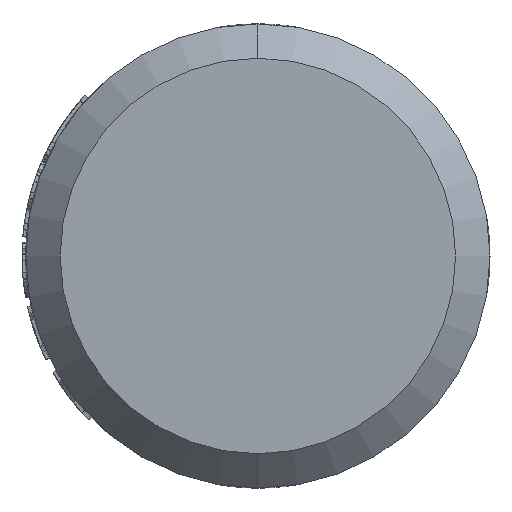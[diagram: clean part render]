
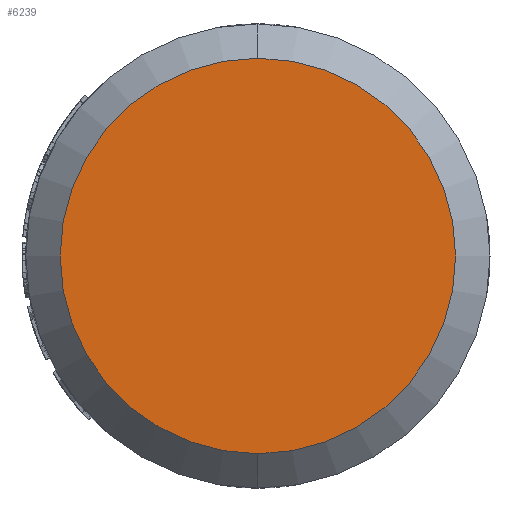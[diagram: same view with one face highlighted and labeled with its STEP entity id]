
A CAD part, left-side view. The second image highlights one B-rep face of the part: STEP entity #6239.
In plain terms, the highlighted planar face has unit normal (-1, 0, 0).
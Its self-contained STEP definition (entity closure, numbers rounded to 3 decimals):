
#1679=CARTESIAN_POINT('',(-31.428,0.,0.));
#1680=DIRECTION('',(-1.,0.,0.));
#1681=DIRECTION('',(0.,0.,-1.));
#1682=AXIS2_PLACEMENT_3D('',#1679,#1680,#1681);
#1684=CARTESIAN_POINT('',(-31.428,0.,0.));
#1685=DIRECTION('',(-1.,0.,0.));
#1686=DIRECTION('',(0.,0.,1.));
#1687=AXIS2_PLACEMENT_3D('',#1684,#1685,#1686);
#4621=CARTESIAN_POINT('',(-31.428,0.,-11.5));
#4622=CARTESIAN_POINT('',(-31.428,0.,11.5));
#4623=VERTEX_POINT('',#4621);
#4624=VERTEX_POINT('',#4622);
#6229=CARTESIAN_POINT('',(-31.428,0.,0.));
#6230=DIRECTION('',(-1.,0.,0.));
#6231=DIRECTION('',(0.,0.,-1.));
#6232=AXIS2_PLACEMENT_3D('',#6229,#6230,#6231);
#6233=PLANE('',#6232);
#6234=ORIENTED_EDGE('',*,*,#6219,.F.);
#6236=ORIENTED_EDGE('',*,*,#6235,.F.);
#6237=EDGE_LOOP('',(#6234,#6236));
#6238=FACE_OUTER_BOUND('',#6237,.F.);
#6239=ADVANCED_FACE('',(#6238),#6233,.T.);
#1683=CIRCLE('',#1682,11.5);
#1688=CIRCLE('',#1687,11.5);
#6219=EDGE_CURVE('',#4623,#4624,#1683,.T.);
#6235=EDGE_CURVE('',#4624,#4623,#1688,.T.);
